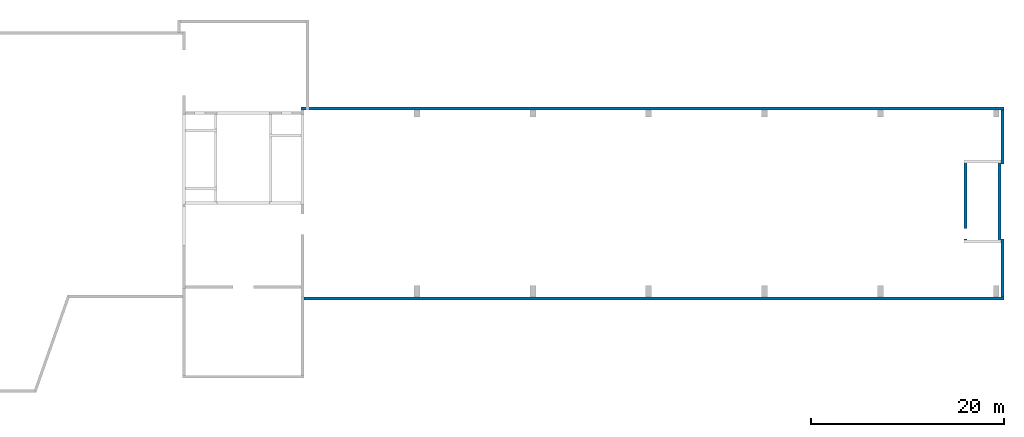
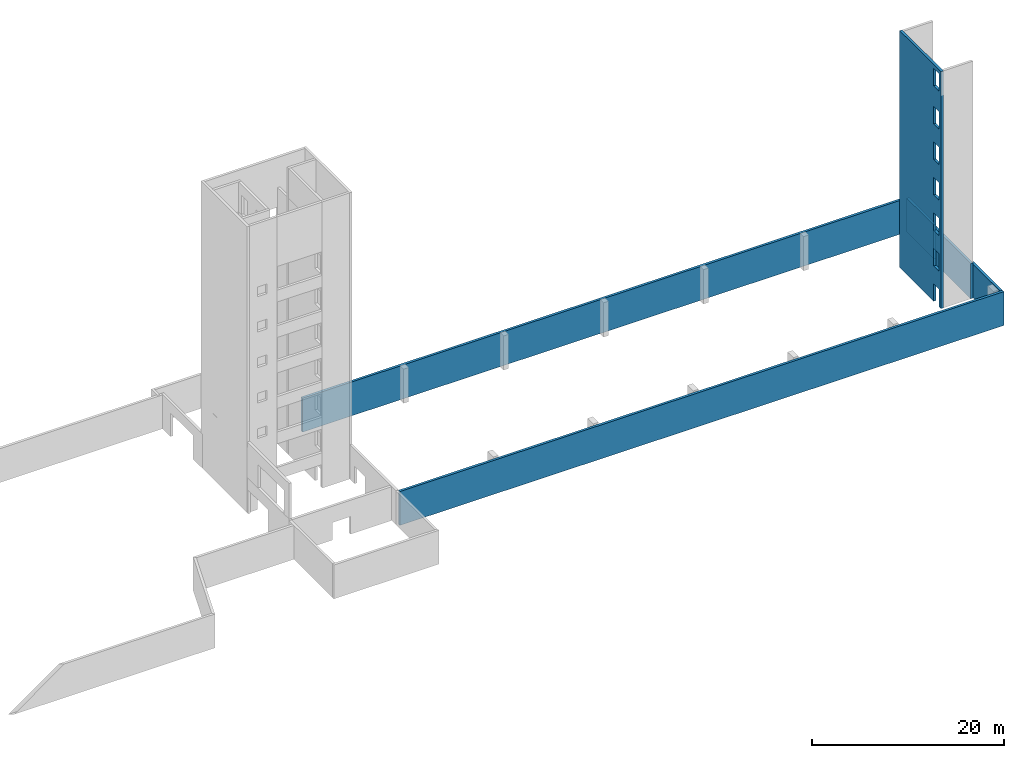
# One storey, part 4 of 4: 6 walls.
"""IFC2X3 building model written with IfcOpenShell, lengths in millimetres."""

import ifcopenshell
import ifcopenshell.guid

model = None  # the IFC model being written
_history = None  # IfcOwnerHistory: only IFC2X3 demands one
_inside = {}  # id of a spatial element -> (the spatial element, [elements in it])
_under = {}  # id of a project, library or spatial element -> (it, [spatial elements below it])
_declared = {}  # id of a project -> (the project, [libraries it declares])
_typed = {}  # id of a type object -> (the type object, [elements of that type])
_made_of = {}  # id of a material, layer set ... -> (it, [elements and type objects made of it])


def new_model(schema):
    """Start an empty IFC model of exactly this schema.

    Asked for "IFC4X3", IfcOpenShell would pick the latest addendum, in which some entities
    have other attributes; the version numbers below select the first issue.
    IFC2X3 requires an IfcOwnerHistory on every rooted entity: one is made here for all.
    """
    global model, _history
    if schema == "IFC4X3":
        model = ifcopenshell.file(schema_version=(4, 3, 0, 0))
    else:
        model = ifcopenshell.file(schema=schema)
    _inside.clear()
    _under.clear()
    _declared.clear()
    _typed.clear()
    _made_of.clear()
    _history = None
    if model.schema == "IFC2X3":
        org = make("IfcOrganization", Name="unknown")
        user = make(
            "IfcPersonAndOrganization",
            ThePerson=make("IfcPerson", FamilyName="unknown"),
            TheOrganization=org,
        )
        app = make(
            "IfcApplication",
            ApplicationDeveloper=org,
            Version="unknown",
            ApplicationFullName="unknown",
            ApplicationIdentifier="unknown",
        )
        _history = make(
            "IfcOwnerHistory",
            OwningUser=user,
            OwningApplication=app,
            ChangeAction="ADDED",
            CreationDate=0,
        )
    return model


def make(cls, **values):
    """One entity of the class cls with the attributes given. An attribute that is None is left unset."""
    return model.create_entity(
        cls, **{name: value for name, value in values.items() if value is not None}
    )


def rooted(cls, **values):
    """An entity with a GlobalId (a new one), such as an element, a storey or a relation."""
    return make(cls, GlobalId=ifcopenshell.guid.new(), OwnerHistory=_history, **values)


def si_unit(unit_type, name, prefix=None):
    """IfcSIUnit, for example si_unit("LENGTHUNIT", "METRE", prefix="MILLI")."""
    return make("IfcSIUnit", UnitType=unit_type, Prefix=prefix, Name=name)


def assignment(units):
    """IfcUnitAssignment: the units of a project."""
    return None if units is None else make("IfcUnitAssignment", Units=units)


def point(xyz):
    """IfcCartesianPoint."""
    return None if xyz is None else make("IfcCartesianPoint", Coordinates=xyz)


def direction(xyz):
    """IfcDirection."""
    return None if xyz is None else make("IfcDirection", DirectionRatios=xyz)


def frame(location, z_axis=None, x_axis=None):
    """IfcAxis2Placement3D, a coordinate frame: its origin and axes. An axis left out is left unset."""
    return make(
        "IfcAxis2Placement3D",
        Location=point(location),
        Axis=direction(z_axis),
        RefDirection=direction(x_axis),
    )


def origin():
    """The frame at (0, 0, 0) with its axes left unset."""
    return frame((0.0, 0.0, 0.0))


def place(relative_to, where):
    """IfcLocalPlacement: puts the frame where relative to a parent placement (None: the world)."""
    return make(
        "IfcLocalPlacement", PlacementRelTo=relative_to, RelativePlacement=where
    )


def context(
    kind, dimensions, precision=None, world=None, true_north=None, identifier=None
):
    """IfcGeometricRepresentationContext, for example the 3D "Model" context."""
    return make(
        "IfcGeometricRepresentationContext",
        ContextIdentifier=identifier,
        ContextType=kind,
        CoordinateSpaceDimension=dimensions,
        Precision=precision,
        WorldCoordinateSystem=world,
        TrueNorth=true_north,
    )


def project(units=None, contexts=None):
    """IfcProject with its units and contexts."""
    return rooted(
        "IfcProject",
        Name="project",
        RepresentationContexts=contexts,
        UnitsInContext=assignment(units),
    )


def spatial(cls, under=None, at=None, **own):
    """A site, building, storey or space (cls), placed at a placement, below another one or the project."""
    s = rooted(cls, ObjectPlacement=at, **own)
    if under is not None:
        _under.setdefault(under.id(), (under, []))[1].append(s)
    return s


def faces_of(points, faces, orient=None, outer=None):
    """IfcFace entities. A face is a list of loops; a loop is a list of indices into points, from 0.

    orient and outer hold one flag for each loop. By default every Orientation is true, the
    first loop of a face is its IfcFaceOuterBound and the others are IfcFaceBound.
    """
    made = []
    for i, loops in enumerate(faces):
        bounds = []
        for j, loop in enumerate(loops):
            is_outer = j == 0 if outer is None else outer[i][j]
            bounds.append(
                make(
                    "IfcFaceOuterBound" if is_outer else "IfcFaceBound",
                    Bound=make("IfcPolyLoop", Polygon=[points[k] for k in loop]),
                    Orientation=True if orient is None else orient[i][j],
                )
            )
        made.append(make("IfcFace", Bounds=bounds))
    return made


def faceted_brep(points, faces, orient=None, outer=None, voids=None):
    """IfcFacetedBrep: a solid bounded by flat faces; with voids (closed shells), ...WithVoids."""
    shared = [point(p) for p in points]
    hull = make("IfcClosedShell", CfsFaces=faces_of(shared, faces, orient, outer))
    if voids is None:
        return make("IfcFacetedBrep", Outer=hull)
    return make(
        "IfcFacetedBrepWithVoids",
        Outer=hull,
        Voids=[
            make(cls, CfsFaces=faces_of(shared, fs, o, b)) for cls, fs, o, b in voids
        ],
    )


def shape(context_of_items, identifier, shape_type, items):
    """IfcShapeRepresentation: the items that make up one representation, for example the "Body"."""
    return make(
        "IfcShapeRepresentation",
        ContextOfItems=context_of_items,
        RepresentationIdentifier=identifier,
        RepresentationType=shape_type,
        Items=items,
    )


def material(Name=None, Category=None):
    """IfcMaterial."""
    return make("IfcMaterial", Name=Name, Category=Category)


def made_of(thing, what):
    """Note that an element or type object is made of a material, layer set ...; save() writes the relation."""
    if what is not None:
        _made_of.setdefault(what.id(), (what, []))[1].append(thing)
    return thing


def element(
    cls,
    number,
    at=None,
    inside=None,
    cuts=None,
    type_object=None,
    material=None,
    context=None,
    identifier="Body",
    shape_type=None,
    held_by="IfcProductDefinitionShape",
    body=None,
    shapes=None,
    **own,
):
    """One element of the class cls, such as IfcWall. Its Tag is "e" and its number.

    at: its placement. inside: the storey or other place that contains it. cuts: it is an
    opening in that element (IfcRelVoidsElement). A single representation is given by context,
    identifier, shape_type and body (its items); several are given by shapes. held_by: the class
    of the entity that holds the representations. save() writes the other relations.
    """
    e = rooted(cls, Tag="e%d" % number, ObjectPlacement=at, **own)
    if body is not None:
        shapes = [shape(context, identifier, shape_type, body)]
    if shapes is not None:
        e.Representation = make(held_by, Representations=shapes)
    if inside is not None:
        _inside.setdefault(inside.id(), (inside, []))[1].append(e)
    if cuts is not None:
        rooted(
            "IfcRelVoidsElement", RelatingBuildingElement=cuts, RelatedOpeningElement=e
        )
    if type_object is not None:
        _typed.setdefault(type_object.id(), (type_object, []))[1].append(e)
    return made_of(e, material)


def aggregate(whole, parts):
    """IfcRelAggregates: a whole, such as a stair, and the parts it consists of."""
    return rooted("IfcRelAggregates", RelatingObject=whole, RelatedObjects=parts)


def save(model, path):
    """Write the relations noted so far, then the file.

    IfcRelAggregates (storeys below a building ...), IfcRelContainedInSpatialStructure (elements
    in a storey), IfcRelDefinesByType, IfcRelAssociatesMaterial and IfcRelDeclares: one each for
    every whole, place, type object, material and project.
    """
    for whole, parts in _under.values():
        aggregate(whole, parts)
    for where, things in _inside.values():
        rooted(
            "IfcRelContainedInSpatialStructure",
            RelatedElements=things,
            RelatingStructure=where,
        )
    for kind, things in _typed.values():
        rooted("IfcRelDefinesByType", RelatedObjects=things, RelatingType=kind)
    for what, things in _made_of.values():
        rooted("IfcRelAssociatesMaterial", RelatedObjects=things, RelatingMaterial=what)
    for by, libraries in _declared.values():
        rooted("IfcRelDeclares", RelatingContext=by, RelatedDefinitions=libraries)
    model.write(path)


model = new_model("IFC2X3")

# Units and contexts
context_of_model = context(None, 3, precision=1e-05, world=origin())
ifc_project = project(units=[si_unit("LENGTHUNIT", "METRE", prefix="MILLI")], contexts=[context_of_model])

# Building, storey
building = spatial("IfcBuilding", under=ifc_project, Name="Building", CompositionType="ELEMENT")
storey = spatial("IfcBuildingStorey", under=building, Name="SHRWLS", CompositionType="ELEMENT")

# Walls
ifc_material_1 = material(Name="C5000")
wall_1_placement = place(None, origin())
element("IfcWall", 1, at=wall_1_placement, inside=storey, material=ifc_material_1, Name="Wall103", context=context_of_model, shape_type="Brep", body=[
    faceted_brep([(84804.8, 7800.0, -4500.0), (12304.8, 7800.0, -4500.0), (12304.8, 8100.0, -4500.0), (84804.8, 8100.0, -4500.0), (12304.8, 7800.0, -203.2), (12304.8, 8100.0, -203.2), (84804.8, 7800.0, -203.2), (84804.8, 8100.0, -203.2)], [[[0, 1, 2, 3]], [[1, 4, 5, 2]], [[4, 6, 7, 5]], [[6, 0, 3, 7]], [[3, 2, 5, 7]], [[0, 6, 4, 1]]]),
])
ifc_material_2 = material(Name="C5000")
wall_2_placement = place(None, origin())
element("IfcWall", 2, at=wall_2_placement, inside=storey, material=ifc_material_2, Name="Wall104", context=context_of_model, shape_type="Brep", body=[
    faceted_brep([(84800.0, 14106.4, -4500.0), (84800.0, 8100.0, -4500.0), (84500.0, 8100.0, -4500.0), (84500.0, 14106.4, -4500.0), (84800.0, 8100.0, -203.2), (84500.0, 8100.0, -203.2), (84800.0, 14106.4, -203.2), (84500.0, 14106.4, -203.2)], [[[0, 1, 2, 3]], [[1, 4, 5, 2]], [[4, 6, 7, 5]], [[6, 0, 3, 7]], [[3, 2, 5, 7]], [[0, 6, 4, 1]]]),
])
ifc_material_3 = material(Name="C5000")
wall_3_placement = place(None, origin())
element("IfcWall", 3, at=wall_3_placement, inside=storey, material=ifc_material_3, Name="Wall105", context=context_of_model, shape_type="Brep", body=[
    faceted_brep([(84800.0, 27500.0, -4500.0), (84800.0, 21893.6, -4500.0), (84500.0, 21893.6, -4500.0), (84500.0, 27500.0, -4500.0), (84800.0, 21893.6, -203.2), (84500.0, 21893.6, -203.2), (84800.0, 27500.0, -203.2), (84500.0, 27500.0, -203.2)], [[[0, 1, 2, 3]], [[1, 4, 5, 2]], [[4, 6, 7, 5]], [[6, 0, 3, 7]], [[3, 2, 5, 7]], [[0, 6, 4, 1]]]),
])
ifc_material_4 = material(Name="C5000")
wall_4_placement = place(None, origin())
element("IfcWall", 4, at=wall_4_placement, inside=storey, material=ifc_material_4, Name="Wall106", context=context_of_model, shape_type="Brep", body=[
    faceted_brep([(12000.0, 27800.0, -4500.0), (84804.8, 27800.0, -4500.0), (84804.8, 27500.0, -4500.0), (12000.0, 27500.0, -4500.0), (84804.8, 27800.0, -203.2), (84804.8, 27500.0, -203.2), (12000.0, 27800.0, -203.2), (12000.0, 27500.0, -203.2)], [[[0, 1, 2, 3]], [[1, 4, 5, 2]], [[4, 6, 7, 5]], [[6, 0, 3, 7]], [[3, 2, 5, 7]], [[0, 6, 4, 1]]]),
])
ifc_material_5 = material(Name="C5000")
wall_5_placement = place(None, origin())
element("IfcWall", 5, at=wall_5_placement, inside=storey, material=ifc_material_5, Name="Wall178", context=context_of_model, shape_type="Brep", body=[
    faceted_brep([(80650.0, 22300.0, 22500.0), (80650.0, 13700.0, 22500.0), (80950.0, 13700.0, 22500.0), (80950.0, 22300.0, 22500.0), (80650.0, 13700.0, -4500.0), (80950.0, 13700.0, -4500.0), (80650.0, 14100.0, -4500.0), (80950.0, 14100.0, -4500.0), (80650.0, 14100.0, -2265.0), (80950.0, 14100.0, -2265.0), (80650.0, 15218.0, -2265.0), (80950.0, 15218.0, -2265.0), (80650.0, 15218.0, -4500.0), (80950.0, 15218.0, -4500.0), (80650.0, 22300.0, -4500.0), (80950.0, 22300.0, -4500.0), (80650.0, 15218.0, 0.0), (80650.0, 14100.0, 0.0), (80950.0, 14100.0, 0.0), (80950.0, 15218.0, 0.0), (80650.0, 14100.0, 2235.0), (80950.0, 14100.0, 2235.0), (80650.0, 15218.0, 2235.0), (80950.0, 15218.0, 2235.0), (80650.0, 15218.0, 4500.0), (80650.0, 14100.0, 4500.0), (80950.0, 14100.0, 4500.0), (80950.0, 15218.0, 4500.0), (80650.0, 14100.0, 6735.0), (80950.0, 14100.0, 6735.0), (80650.0, 15218.0, 6735.0), (80950.0, 15218.0, 6735.0), (80650.0, 15218.0, 9000.0), (80650.0, 14100.0, 9000.0), (80950.0, 14100.0, 9000.0), (80950.0, 15218.0, 9000.0), (80650.0, 14100.0, 11235.0), (80950.0, 14100.0, 11235.0), (80650.0, 15218.0, 11235.0), (80950.0, 15218.0, 11235.0), (80650.0, 15218.0, 13500.0), (80650.0, 14100.0, 13500.0), (80950.0, 14100.0, 13500.0), (80950.0, 15218.0, 13500.0), (80650.0, 14100.0, 15735.0), (80950.0, 14100.0, 15735.0), (80650.0, 15218.0, 15735.0), (80950.0, 15218.0, 15735.0), (80650.0, 15218.0, 18000.0), (80650.0, 14100.0, 18000.0), (80950.0, 14100.0, 18000.0), (80950.0, 15218.0, 18000.0), (80650.0, 14100.0, 20235.0), (80950.0, 14100.0, 20235.0), (80650.0, 15218.0, 20235.0), (80950.0, 15218.0, 20235.0), (80647.6, 13700.0, 22500.0), (80647.6, 22300.0, 22500.0), (80952.4, 22300.0, 22500.0), (80952.4, 13700.0, 22500.0), (80647.6, 22300.0, 25564.0), (80952.4, 22300.0, 25564.0), (80647.6, 13700.0, 25564.0), (80952.4, 13700.0, 25564.0), (80647.6, 15218.0, 22850.0), (80647.6, 14100.0, 22850.0), (80952.4, 14100.0, 22850.0), (80952.4, 15218.0, 22850.0), (80647.6, 14100.0, 25085.0), (80952.4, 14100.0, 25085.0), (80647.6, 15218.0, 25085.0), (80952.4, 15218.0, 25085.0)], [[[0, 1, 2, 3]], [[1, 4, 5, 2]], [[4, 6, 7, 5]], [[6, 8, 9, 7]], [[8, 10, 11, 9]], [[10, 12, 13, 11]], [[12, 14, 15, 13]], [[14, 0, 3, 15]], [[16, 17, 18, 19]], [[17, 20, 21, 18]], [[20, 22, 23, 21]], [[22, 16, 19, 23]], [[24, 25, 26, 27]], [[25, 28, 29, 26]], [[28, 30, 31, 29]], [[30, 24, 27, 31]], [[32, 33, 34, 35]], [[33, 36, 37, 34]], [[36, 38, 39, 37]], [[38, 32, 35, 39]], [[40, 41, 42, 43]], [[41, 44, 45, 42]], [[44, 46, 47, 45]], [[46, 40, 43, 47]], [[48, 49, 50, 51]], [[49, 52, 53, 50]], [[52, 54, 55, 53]], [[54, 48, 51, 55]], [[3, 2, 5, 7, 9, 11, 13, 15], [19, 18, 21, 23], [27, 26, 29, 31], [35, 34, 37, 39], [43, 42, 45, 47], [51, 50, 53, 55]], [[0, 14, 12, 10, 8, 6, 4, 1], [16, 22, 20, 17], [24, 30, 28, 25], [32, 38, 36, 33], [40, 46, 44, 41], [48, 54, 52, 49]], [[56, 57, 58, 59]], [[57, 60, 61, 58]], [[60, 62, 63, 61]], [[62, 56, 59, 63]], [[64, 65, 66, 67]], [[65, 68, 69, 66]], [[68, 70, 71, 69]], [[70, 64, 67, 71]], [[59, 58, 61, 63], [67, 66, 69, 71]], [[56, 62, 60, 57], [64, 70, 68, 65]]]),
])
ifc_material_6 = material(Name="C5000")
wall_6_placement = place(None, origin())
element("IfcWall", 6, at=wall_6_placement, inside=storey, material=ifc_material_6, Name="Wall182", context=context_of_model, shape_type="Brep", body=[
    faceted_brep([(84500.0, 22300.0, -4500.0), (84500.0, 13700.0, -4500.0), (84200.0, 13700.0, -4500.0), (84200.0, 22300.0, -4500.0), (84500.0, 13700.0, 0.0), (84200.0, 13700.0, 0.0), (84500.0, 22300.0, 0.0), (84200.0, 22300.0, 0.0)], [[[0, 1, 2, 3]], [[1, 4, 5, 2]], [[4, 6, 7, 5]], [[6, 0, 3, 7]], [[3, 2, 5, 7]], [[0, 6, 4, 1]]]),
])

save(model, "model.ifc")
